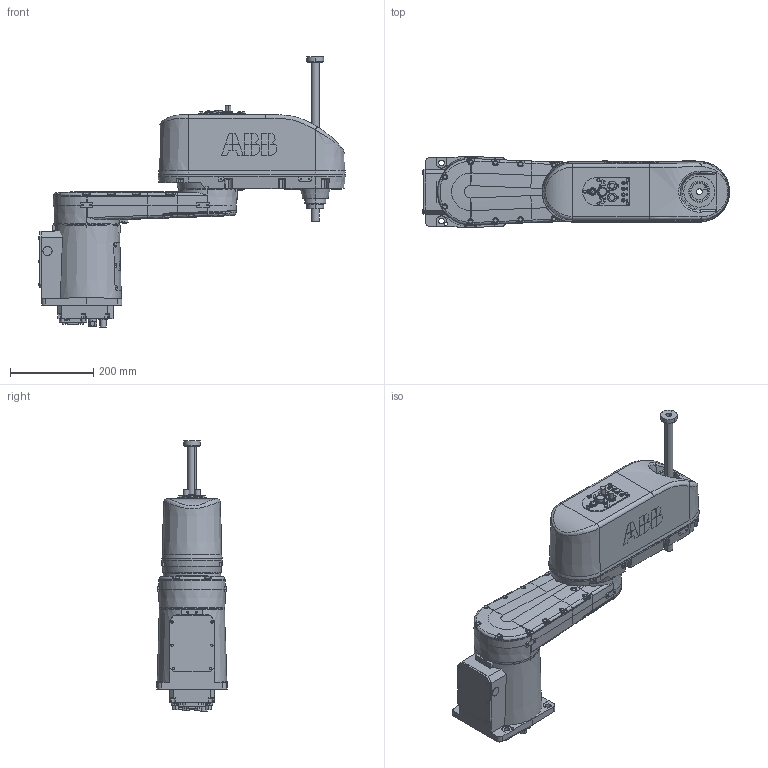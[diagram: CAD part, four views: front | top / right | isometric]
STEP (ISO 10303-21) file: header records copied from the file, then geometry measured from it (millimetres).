
FILE_DESCRIPTION (( 'STEP AP214' ), '1' );
FILE_NAME ('IRB920_6kg-550-180-BTM_OmniCore_rev00_Assembly.STEP', '2022-06-20T03:23:56', ( '' ), ( '' ), 'SwSTEP 2.0', 'SolidWorks 2020', '' );
FILE_SCHEMA (( 'AUTOMOTIVE_DESIGN' ));
Length unit declared in the file: millimetre
Products named in the file (5): IRB920_6kg-550-180-BTM_OmniCore_rev00_LINK3_CAD; IRB920_6kg-550-180-BTM_OmniCore_rev00_Assembly; IRB920_6kg-550-180-BTM_OmniCore_rev00_LINK0_CAD; IRB920_6kg-550-180-BTM_OmniCore_rev00_LINK1_CAD; IRB920_6kg-550-180-BTM_OmniCore_rev00_LINK2_CAD
Assembly tree (4 placements, depth 2):
  IRB920_6kg-550-180-BTM_OmniCore_rev00_Assembly
    IRB920_6kg-550-180-BTM_OmniCore_rev00_LINK0_CAD
    IRB920_6kg-550-180-BTM_OmniCore_rev00_LINK1_CAD
    IRB920_6kg-550-180-BTM_OmniCore_rev00_LINK2_CAD
    IRB920_6kg-550-180-BTM_OmniCore_rev00_LINK3_CAD
Bounding box: 739 x 170 x 649.33 mm (x, y, z)
Volume: 19161182.5 mm3; surface area: 788339.3 mm2
Topology: 4 solids, 5 shells, 2243 faces, 5747 edges, 3730 vertices
Faces by surface type: plane 1205, cylinder 400, bspline 391, cone 234, torus 12, sphere 1
Entity records: 93224 total; most frequent: CARTESIAN_POINT 40069, ORIENTED_EDGE 11346, DIRECTION 8920, EDGE_CURVE 5673, VERTEX_POINT 3728, VECTOR 3332, LINE 3332, AXIS2_PLACEMENT_3D 2794
